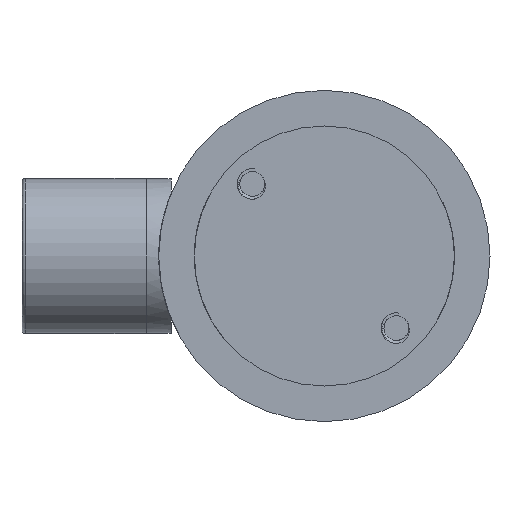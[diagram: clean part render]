
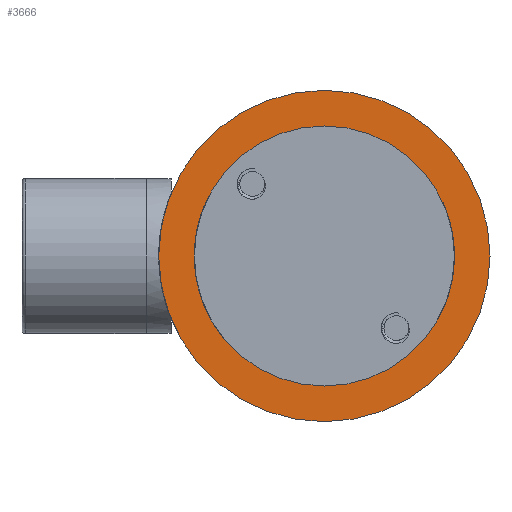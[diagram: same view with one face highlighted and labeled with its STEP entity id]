
A CAD part, front view. The second image highlights one B-rep face of the part: STEP entity #3666.
In plain terms, the highlighted planar face has unit normal (0, -1, 0).
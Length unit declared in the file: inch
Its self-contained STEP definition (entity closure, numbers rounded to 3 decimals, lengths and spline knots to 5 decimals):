
#507 = VERTEX_POINT ( 'NONE', #19239 ) ;
#628 = DIRECTION ( 'NONE',  ( 0., -1., 0. ) ) ;
#1057 = ORIENTED_EDGE ( 'NONE', *, *, #8363, .T. ) ;
#1231 = AXIS2_PLACEMENT_3D ( 'NONE', #15128, #9115, #4283 ) ;
#1457 = FACE_BOUND ( 'NONE', #5554, .T. ) ;
#1519 = CIRCLE ( 'NONE', #9421, 1. ) ;
#2435 = DIRECTION ( 'NONE',  ( 0., 0., 1. ) ) ;
#2651 = CARTESIAN_POINT ( 'NONE',  ( 0., 0.831, -1. ) ) ;
#3384 = EDGE_CURVE ( 'NONE', #11632, #507, #6886, .T. ) ;
#3406 = EDGE_CURVE ( 'NONE', #507, #11632, #1519, .T. ) ;
#3459 = AXIS2_PLACEMENT_3D ( 'NONE', #12582, #18616, #15338 ) ;
#3666 = ADVANCED_FACE ( 'Defeatured_0_81', ( #1457, #9269 ), #13503, .T. ) ;
#3725 = DIRECTION ( 'NONE',  ( 0., -1., 0. ) ) ;
#3824 = DIRECTION ( 'NONE',  ( 0., -1., 0. ) ) ;
#4283 = DIRECTION ( 'NONE',  ( 0., 0., 1. ) ) ;
#4365 = VERTEX_POINT ( 'NONE', #5166 ) ;
#5166 = CARTESIAN_POINT ( 'NONE',  ( 0., 0.831, -0.785 ) ) ;
#5504 = CARTESIAN_POINT ( 'NONE',  ( 0., 0.831, 0. ) ) ;
#5554 = EDGE_LOOP ( 'NONE', ( #1057, #14921 ) ) ;
#6308 = ORIENTED_EDGE ( 'NONE', *, *, #3406, .T. ) ;
#6775 = CARTESIAN_POINT ( 'NONE',  ( 0., 0.831, 0. ) ) ;
#6886 = CIRCLE ( 'NONE', #17939, 1. ) ;
#8042 = DIRECTION ( 'NONE',  ( 0., 0., 1. ) ) ;
#8363 = EDGE_CURVE ( 'NONE', #4365, #14770, #17968, .T. ) ;
#8858 = EDGE_CURVE ( 'NONE', #14770, #4365, #13543, .T. ) ;
#9071 = CARTESIAN_POINT ( 'NONE',  ( -1., 0.831, 0. ) ) ;
#9115 = DIRECTION ( 'NONE',  ( 0., 1., 0. ) ) ;
#9269 = FACE_OUTER_BOUND ( 'NONE', #11809, .T. ) ;
#9421 = AXIS2_PLACEMENT_3D ( 'NONE', #6775, #3824, #9850 ) ;
#9850 = DIRECTION ( 'NONE',  ( 0., 0., 1. ) ) ;
#10401 = CARTESIAN_POINT ( 'NONE',  ( 0., 0.831, 0.785 ) ) ;
#11632 = VERTEX_POINT ( 'NONE', #2651 ) ;
#11809 = EDGE_LOOP ( 'NONE', ( #6308, #18699 ) ) ;
#11954 = AXIS2_PLACEMENT_3D ( 'NONE', #9071, #628, #8042 ) ;
#12582 = CARTESIAN_POINT ( 'NONE',  ( 0., 0.831, 0. ) ) ;
#13503 = PLANE ( 'NONE',  #11954 ) ;
#13543 = CIRCLE ( 'NONE', #1231, 0.785 ) ;
#14770 = VERTEX_POINT ( 'NONE', #10401 ) ;
#14921 = ORIENTED_EDGE ( 'NONE', *, *, #8858, .T. ) ;
#15128 = CARTESIAN_POINT ( 'NONE',  ( 0., 0.831, 0. ) ) ;
#15338 = DIRECTION ( 'NONE',  ( 0., 0., 1. ) ) ;
#17939 = AXIS2_PLACEMENT_3D ( 'NONE', #5504, #3725, #2435 ) ;
#17968 = CIRCLE ( 'NONE', #3459, 0.785 ) ;
#18616 = DIRECTION ( 'NONE',  ( 0., 1., 0. ) ) ;
#18699 = ORIENTED_EDGE ( 'NONE', *, *, #3384, .T. ) ;
#19239 = CARTESIAN_POINT ( 'NONE',  ( 0., 0.831, 1. ) ) ;
